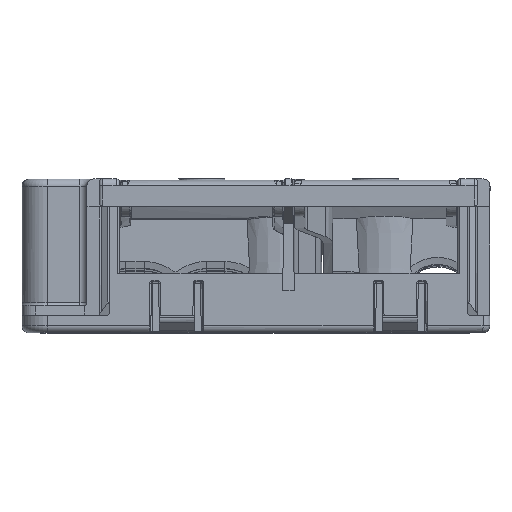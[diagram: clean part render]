
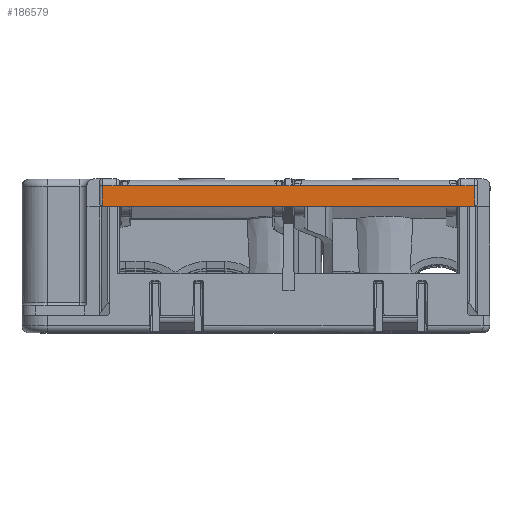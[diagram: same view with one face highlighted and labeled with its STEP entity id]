
A CAD part, top view. The second image highlights one B-rep face of the part: STEP entity #186579.
In plain terms, the highlighted planar face has unit normal (0, 0, 1).
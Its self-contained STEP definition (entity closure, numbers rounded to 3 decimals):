
#3815 = FACE_OUTER_BOUND ( 'NONE', #51285, .T. ) ;
#4820 = CARTESIAN_POINT ( 'NONE',  ( 0.377, 21., 19.3 ) ) ;
#4883 = EDGE_CURVE ( 'NONE', #45701, #185014, #176787, .T. ) ;
#5863 = CARTESIAN_POINT ( 'NONE',  ( -0.56, 21., 19.3 ) ) ;
#8696 = EDGE_CURVE ( 'NONE', #17175, #195742, #189506, .T. ) ;
#15119 = VECTOR ( 'NONE', #18044, 1000. ) ;
#16072 = ORIENTED_EDGE ( 'NONE', *, *, #133127, .F. ) ;
#17175 = VERTEX_POINT ( 'NONE', #123325 ) ;
#18044 = DIRECTION ( 'NONE',  ( 1., 0., 0. ) ) ;
#19543 = VECTOR ( 'NONE', #191981, 1000. ) ;
#21641 = DIRECTION ( 'NONE',  ( 0., 1., 0. ) ) ;
#24592 = LINE ( 'NONE', #167492, #105376 ) ;
#26016 = CARTESIAN_POINT ( 'NONE',  ( -0.377, 21., 19.3 ) ) ;
#30486 = CARTESIAN_POINT ( 'NONE',  ( 24.25, 21., 19.3 ) ) ;
#31544 = VECTOR ( 'NONE', #151983, 1000. ) ;
#33280 = CARTESIAN_POINT ( 'NONE',  ( 24.25, 21., 19.3 ) ) ;
#35757 = CARTESIAN_POINT ( 'NONE',  ( -24.65, 21., 19.3 ) ) ;
#35814 = DIRECTION ( 'NONE',  ( 0., -1., 0. ) ) ;
#37795 = CARTESIAN_POINT ( 'NONE',  ( -26.65, 18.1, 19.3 ) ) ;
#40840 = VERTEX_POINT ( 'NONE', #146190 ) ;
#40909 = VERTEX_POINT ( 'NONE', #26016 ) ;
#45701 = VERTEX_POINT ( 'NONE', #4820 ) ;
#49891 = DIRECTION ( 'NONE',  ( 0., 0., 1. ) ) ;
#51285 = EDGE_LOOP ( 'NONE', ( #130041, #166565, #123145, #144534, #113419, #16072, #130588, #118694 ) ) ;
#65894 = CARTESIAN_POINT ( 'NONE',  ( 27.05, 21., 19.3 ) ) ;
#65913 = CARTESIAN_POINT ( 'NONE',  ( -26.65, 18.1, 19.3 ) ) ;
#69931 = VECTOR ( 'NONE', #21641, 1000. ) ;
#76592 = DIRECTION ( 'NONE',  ( -1., 0., 0. ) ) ;
#80002 = EDGE_CURVE ( 'NONE', #194333, #17175, #24592, .T. ) ;
#81600 = DIRECTION ( 'NONE',  ( -1., 0., 0. ) ) ;
#86405 = CARTESIAN_POINT ( 'NONE',  ( 24.65, 21., 19.3 ) ) ;
#91929 = VECTOR ( 'NONE', #81600, 1000. ) ;
#92412 = AXIS2_PLACEMENT_3D ( 'NONE', #140805, #49891, #156110 ) ;
#96609 = EDGE_CURVE ( 'NONE', #40840, #185014, #160223, .T. ) ;
#100368 = EDGE_CURVE ( 'NONE', #45701, #40909, #136945, .T. ) ;
#105376 = VECTOR ( 'NONE', #76592, 1000. ) ;
#106700 = EDGE_CURVE ( 'NONE', #118206, #40840, #191075, .T. ) ;
#108119 = EDGE_CURVE ( 'NONE', #195742, #118206, #181108, .T. ) ;
#108677 = VECTOR ( 'NONE', #35814, 1000. ) ;
#111615 = DIRECTION ( 'NONE',  ( -1., 0., 0. ) ) ;
#113419 = ORIENTED_EDGE ( 'NONE', *, *, #100368, .T. ) ;
#117002 = LINE ( 'NONE', #30486, #31544 ) ;
#118206 = VERTEX_POINT ( 'NONE', #152431 ) ;
#118694 = ORIENTED_EDGE ( 'NONE', *, *, #8696, .T. ) ;
#119758 = VECTOR ( 'NONE', #111615, 1000. ) ;
#123145 = ORIENTED_EDGE ( 'NONE', *, *, #96609, .T. ) ;
#123325 = CARTESIAN_POINT ( 'NONE',  ( -26.65, 21., 19.3 ) ) ;
#130041 = ORIENTED_EDGE ( 'NONE', *, *, #108119, .T. ) ;
#130588 = ORIENTED_EDGE ( 'NONE', *, *, #80002, .T. ) ;
#133127 = EDGE_CURVE ( 'NONE', #194333, #40909, #117002, .T. ) ;
#136945 = LINE ( 'NONE', #5863, #91929 ) ;
#140805 = CARTESIAN_POINT ( 'NONE',  ( 27.05, 18.1, 19.3 ) ) ;
#143046 = CARTESIAN_POINT ( 'NONE',  ( 26.65, 18.1, 19.3 ) ) ;
#144534 = ORIENTED_EDGE ( 'NONE', *, *, #4883, .F. ) ;
#146190 = CARTESIAN_POINT ( 'NONE',  ( 26.65, 21., 19.3 ) ) ;
#151983 = DIRECTION ( 'NONE',  ( 1., 0., 0. ) ) ;
#152431 = CARTESIAN_POINT ( 'NONE',  ( 26.65, 18.1, 19.3 ) ) ;
#156110 = DIRECTION ( 'NONE',  ( 0., -1., 0. ) ) ;
#160223 = LINE ( 'NONE', #65894, #119758 ) ;
#166565 = ORIENTED_EDGE ( 'NONE', *, *, #106700, .T. ) ;
#167492 = CARTESIAN_POINT ( 'NONE',  ( 27.05, 21., 19.3 ) ) ;
#170767 = PLANE ( 'NONE',  #92412 ) ;
#176770 = CARTESIAN_POINT ( 'NONE',  ( 27.05, 18.1, 19.3 ) ) ;
#176787 = LINE ( 'NONE', #33280, #15119 ) ;
#181108 = LINE ( 'NONE', #176770, #19543 ) ;
#185014 = VERTEX_POINT ( 'NONE', #86405 ) ;
#186579 = ADVANCED_FACE ( 'NONE', ( #3815 ), #170767, .T. ) ;
#189506 = LINE ( 'NONE', #37795, #108677 ) ;
#191075 = LINE ( 'NONE', #143046, #69931 ) ;
#191981 = DIRECTION ( 'NONE',  ( 1., 0., 0. ) ) ;
#194333 = VERTEX_POINT ( 'NONE', #35757 ) ;
#195742 = VERTEX_POINT ( 'NONE', #65913 ) ;
